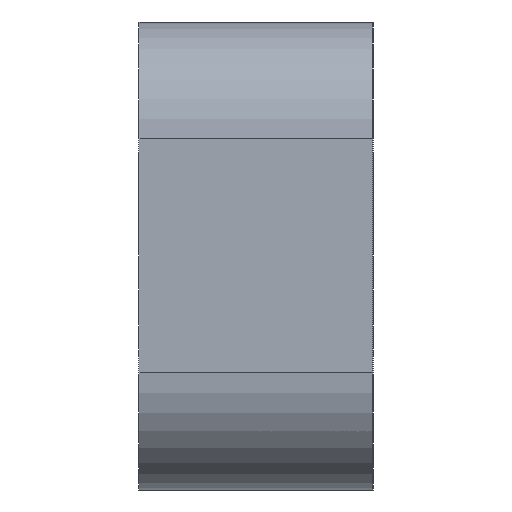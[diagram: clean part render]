
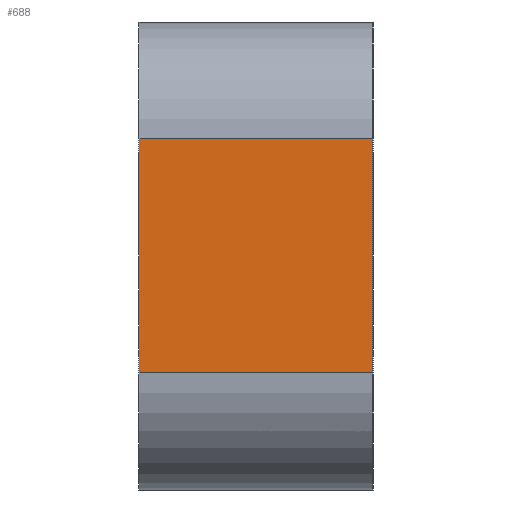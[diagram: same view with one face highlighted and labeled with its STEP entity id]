
A CAD part, left-side view. The second image highlights one B-rep face of the part: STEP entity #688.
In plain terms, the highlighted planar face has unit normal (-1, 0, 0).
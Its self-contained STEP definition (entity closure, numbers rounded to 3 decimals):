
#44 = PLANE('',#45);
#45 = AXIS2_PLACEMENT_3D('',#46,#47,#48);
#46 = CARTESIAN_POINT('',(0.,46.5,98.));
#47 = DIRECTION('',(-0.,1.,0.));
#48 = DIRECTION('',(-1.,-0.,-0.));
#72 = CYLINDRICAL_SURFACE('',#73,2.);
#73 = AXIS2_PLACEMENT_3D('',#74,#75,#76);
#74 = CARTESIAN_POINT('',(-23.,46.5,96.));
#75 = DIRECTION('',(-0.,1.,0.));
#76 = DIRECTION('',(-0.,0.,-1.));
#100 = PLANE('',#101);
#101 = AXIS2_PLACEMENT_3D('',#102,#103,#104);
#102 = CARTESIAN_POINT('',(0.,50.5,98.));
#103 = DIRECTION('',(-0.,1.,0.));
#104 = DIRECTION('',(-1.,-0.,-0.));
#260 = VERTEX_POINT('',#261);
#261 = CARTESIAN_POINT('',(-25.,46.5,100.));
#280 = CYLINDRICAL_SURFACE('',#281,2.);
#281 = AXIS2_PLACEMENT_3D('',#282,#283,#284);
#282 = CARTESIAN_POINT('',(-23.,46.5,100.));
#283 = DIRECTION('',(-0.,1.,0.));
#284 = DIRECTION('',(0.,0.,1.));
#292 = EDGE_CURVE('',#260,#293,#295,.T.);
#293 = VERTEX_POINT('',#294);
#294 = CARTESIAN_POINT('',(-25.,46.5,96.));
#295 = SURFACE_CURVE('',#296,(#300,#307),.PCURVE_S1.);
#296 = LINE('',#297,#298);
#297 = CARTESIAN_POINT('',(-25.,46.5,102.));
#298 = VECTOR('',#299,1.);
#299 = DIRECTION('',(-0.,0.,-1.));
#300 = PCURVE('',#44,#301);
#301 = DEFINITIONAL_REPRESENTATION('',(#302),#306);
#302 = LINE('',#303,#304);
#303 = CARTESIAN_POINT('',(25.,4.));
#304 = VECTOR('',#305,1.);
#305 = DIRECTION('',(-0.,-1.));
#306 = ( GEOMETRIC_REPRESENTATION_CONTEXT(2) 
PARAMETRIC_REPRESENTATION_CONTEXT() REPRESENTATION_CONTEXT('2D SPACE',''
  ) );
#307 = PCURVE('',#308,#313);
#308 = PLANE('',#309);
#309 = AXIS2_PLACEMENT_3D('',#310,#311,#312);
#310 = CARTESIAN_POINT('',(-25.,46.5,102.));
#311 = DIRECTION('',(1.,0.,0.));
#312 = DIRECTION('',(0.,0.,1.));
#313 = DEFINITIONAL_REPRESENTATION('',(#314),#318);
#314 = LINE('',#315,#316);
#315 = CARTESIAN_POINT('',(0.,-0.));
#316 = VECTOR('',#317,1.);
#317 = DIRECTION('',(-1.,0.));
#318 = ( GEOMETRIC_REPRESENTATION_CONTEXT(2) 
PARAMETRIC_REPRESENTATION_CONTEXT() REPRESENTATION_CONTEXT('2D SPACE',''
  ) );
#408 = EDGE_CURVE('',#293,#409,#411,.T.);
#409 = VERTEX_POINT('',#410);
#410 = CARTESIAN_POINT('',(-25.,50.5,96.));
#411 = SURFACE_CURVE('',#412,(#416,#423),.PCURVE_S1.);
#412 = LINE('',#413,#414);
#413 = CARTESIAN_POINT('',(-25.,46.5,96.));
#414 = VECTOR('',#415,1.);
#415 = DIRECTION('',(-0.,1.,0.));
#416 = PCURVE('',#72,#417);
#417 = DEFINITIONAL_REPRESENTATION('',(#418),#422);
#418 = LINE('',#419,#420);
#419 = CARTESIAN_POINT('',(1.571,0.));
#420 = VECTOR('',#421,1.);
#421 = DIRECTION('',(0.,1.));
#422 = ( GEOMETRIC_REPRESENTATION_CONTEXT(2) 
PARAMETRIC_REPRESENTATION_CONTEXT() REPRESENTATION_CONTEXT('2D SPACE',''
  ) );
#423 = PCURVE('',#308,#424);
#424 = DEFINITIONAL_REPRESENTATION('',(#425),#429);
#425 = LINE('',#426,#427);
#426 = CARTESIAN_POINT('',(-6.,0.));
#427 = VECTOR('',#428,1.);
#428 = DIRECTION('',(-0.,-1.));
#429 = ( GEOMETRIC_REPRESENTATION_CONTEXT(2) 
PARAMETRIC_REPRESENTATION_CONTEXT() REPRESENTATION_CONTEXT('2D SPACE',''
  ) );
#588 = VERTEX_POINT('',#589);
#589 = CARTESIAN_POINT('',(-25.,50.5,100.));
#615 = EDGE_CURVE('',#588,#409,#616,.T.);
#616 = SURFACE_CURVE('',#617,(#621,#628),.PCURVE_S1.);
#617 = LINE('',#618,#619);
#618 = CARTESIAN_POINT('',(-25.,50.5,102.));
#619 = VECTOR('',#620,1.);
#620 = DIRECTION('',(-0.,0.,-1.));
#621 = PCURVE('',#100,#622);
#622 = DEFINITIONAL_REPRESENTATION('',(#623),#627);
#623 = LINE('',#624,#625);
#624 = CARTESIAN_POINT('',(25.,4.));
#625 = VECTOR('',#626,1.);
#626 = DIRECTION('',(-0.,-1.));
#627 = ( GEOMETRIC_REPRESENTATION_CONTEXT(2) 
PARAMETRIC_REPRESENTATION_CONTEXT() REPRESENTATION_CONTEXT('2D SPACE',''
  ) );
#628 = PCURVE('',#308,#629);
#629 = DEFINITIONAL_REPRESENTATION('',(#630),#634);
#630 = LINE('',#631,#632);
#631 = CARTESIAN_POINT('',(0.,-4.));
#632 = VECTOR('',#633,1.);
#633 = DIRECTION('',(-1.,0.));
#634 = ( GEOMETRIC_REPRESENTATION_CONTEXT(2) 
PARAMETRIC_REPRESENTATION_CONTEXT() REPRESENTATION_CONTEXT('2D SPACE',''
  ) );
#688 = ADVANCED_FACE('',(#689),#308,.F.);
#689 = FACE_BOUND('',#690,.T.);
#690 = EDGE_LOOP('',(#691,#692,#713,#714));
#691 = ORIENTED_EDGE('',*,*,#292,.F.);
#692 = ORIENTED_EDGE('',*,*,#693,.T.);
#693 = EDGE_CURVE('',#260,#588,#694,.T.);
#694 = SURFACE_CURVE('',#695,(#699,#706),.PCURVE_S1.);
#695 = LINE('',#696,#697);
#696 = CARTESIAN_POINT('',(-25.,46.5,100.));
#697 = VECTOR('',#698,1.);
#698 = DIRECTION('',(-0.,1.,0.));
#699 = PCURVE('',#308,#700);
#700 = DEFINITIONAL_REPRESENTATION('',(#701),#705);
#701 = LINE('',#702,#703);
#702 = CARTESIAN_POINT('',(-2.,0.));
#703 = VECTOR('',#704,1.);
#704 = DIRECTION('',(-0.,-1.));
#705 = ( GEOMETRIC_REPRESENTATION_CONTEXT(2) 
PARAMETRIC_REPRESENTATION_CONTEXT() REPRESENTATION_CONTEXT('2D SPACE',''
  ) );
#706 = PCURVE('',#280,#707);
#707 = DEFINITIONAL_REPRESENTATION('',(#708),#712);
#708 = LINE('',#709,#710);
#709 = CARTESIAN_POINT('',(-1.571,0.));
#710 = VECTOR('',#711,1.);
#711 = DIRECTION('',(-0.,1.));
#712 = ( GEOMETRIC_REPRESENTATION_CONTEXT(2) 
PARAMETRIC_REPRESENTATION_CONTEXT() REPRESENTATION_CONTEXT('2D SPACE',''
  ) );
#713 = ORIENTED_EDGE('',*,*,#615,.T.);
#714 = ORIENTED_EDGE('',*,*,#408,.F.);
